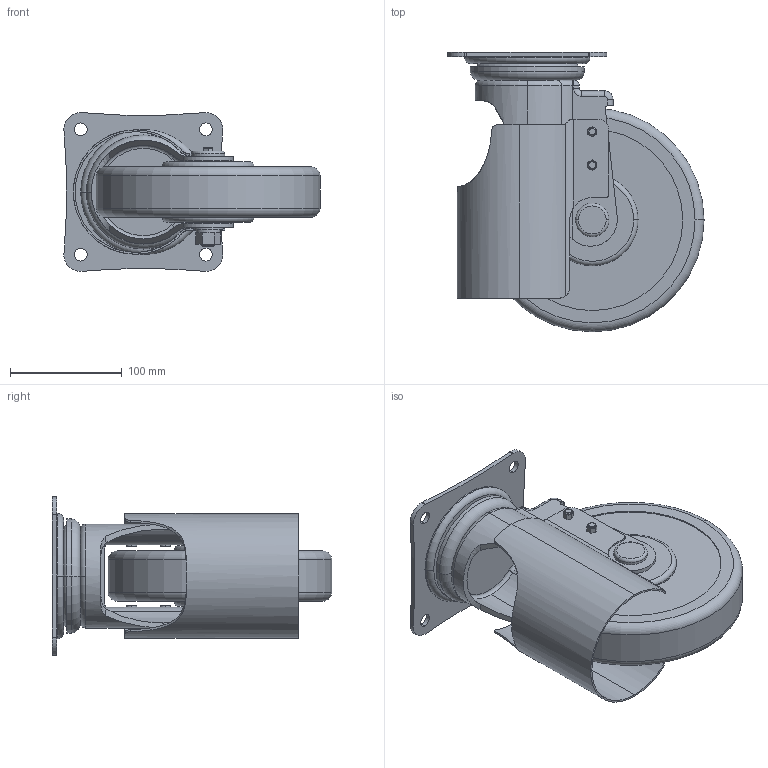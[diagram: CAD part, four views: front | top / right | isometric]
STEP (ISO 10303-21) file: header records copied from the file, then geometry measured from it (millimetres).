
FILE_DESCRIPTION (( 'STEP AP214' ), '1' );
FILE_NAME ('NSFUJAZ200rev0.STEP', '2017-11-29T06:34:17', ( '' ), ( '' ), 'SwSTEP 2.0', 'SolidWorks 2013', '' );
FILE_SCHEMA (( 'AUTOMOTIVE_DESIGN' ));
Length unit declared in the file: millimetre
Products named in the file (6): NSFUJAZ200rev0; NSFUJAZ200rev1; NSFUJAZ200rev2; NSFUJAZ200rev3; NSFUJAZ200rev4; NSFUJAZ200rev5
Assembly tree (5 placements, depth 2):
  NSFUJAZ200rev0
    NSFUJAZ200rev1
    NSFUJAZ200rev2
    NSFUJAZ200rev3
    NSFUJAZ200rev4
    NSFUJAZ200rev5
Bounding box: 228.96 x 250 x 141.94 mm (x, y, z)
Volume: 1863582.3 mm3; surface area: 313872.1 mm2
Topology: 5 solids, 5 shells, 278 faces, 663 edges, 415 vertices
Faces by surface type: cylinder 123, plane 108, torus 39, bspline 4, cone 2, sphere 2
Entity records: 8900 total; most frequent: CARTESIAN_POINT 2126, DIRECTION 1459, ORIENTED_EDGE 1318, EDGE_CURVE 659, AXIS2_PLACEMENT_3D 580, VERTEX_POINT 415, EDGE_LOOP 310, LINE 299
